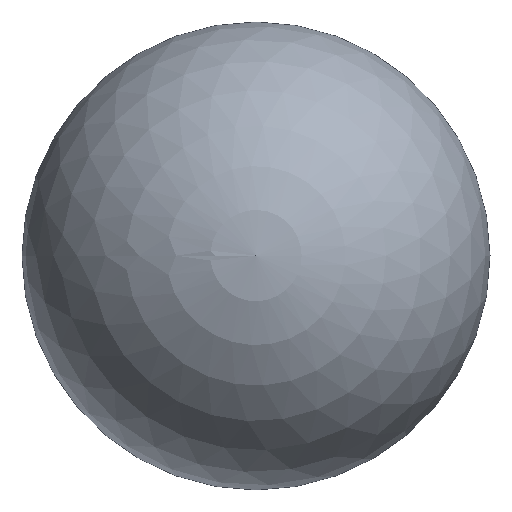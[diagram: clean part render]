
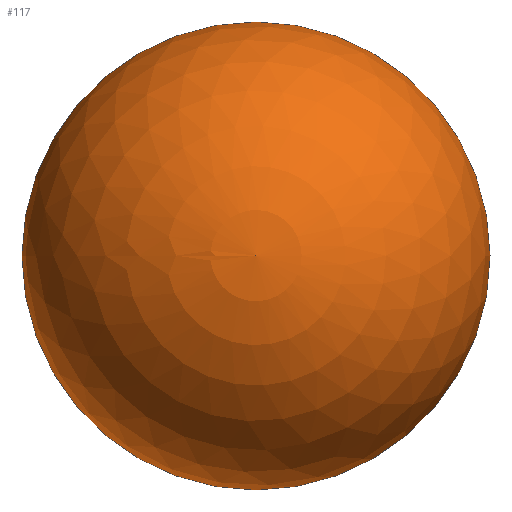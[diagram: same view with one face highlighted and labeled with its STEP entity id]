
A CAD part, top view. The second image highlights one B-rep face of the part: STEP entity #117.
In plain terms, the highlighted spherical face has radius 500 mm.
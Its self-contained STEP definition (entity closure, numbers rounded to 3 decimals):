
#46=FACE_OUTER_BOUND('',#54,.T.);
#54=EDGE_LOOP('',(#88,#89,#90));
#62=CIRCLE('',#142,500.);
#63=CIRCLE('',#143,500.);
#64=VERTEX_POINT('',#187);
#65=VERTEX_POINT('',#189);
#74=EDGE_CURVE('',#64,#64,#62,.T.);
#75=EDGE_CURVE('',#65,#64,#63,.T.);
#88=ORIENTED_EDGE('',*,*,#74,.F.);
#89=ORIENTED_EDGE('',*,*,#75,.F.);
#90=ORIENTED_EDGE('',*,*,#75,.T.);
#116=SPHERICAL_SURFACE('',#141,500.);
#117=ADVANCED_FACE('',(#46),#116,.T.);
#141=AXIS2_PLACEMENT_3D('',#186,#153,#154);
#142=AXIS2_PLACEMENT_3D('',#188,#155,#156);
#143=AXIS2_PLACEMENT_3D('',#190,#157,#158);
#153=DIRECTION('center_axis',(0.,0.,1.));
#154=DIRECTION('ref_axis',(1.,0.,0.));
#155=DIRECTION('center_axis',(0.,0.,-1.));
#156=DIRECTION('ref_axis',(1.,0.,0.));
#157=DIRECTION('center_axis',(0.,-1.,0.));
#158=DIRECTION('ref_axis',(-1.,0.,0.));
#186=CARTESIAN_POINT('Origin',(0.,0.,0.));
#187=CARTESIAN_POINT('',(-500.,0.,0.));
#188=CARTESIAN_POINT('Origin',(0.,0.,0.));
#189=CARTESIAN_POINT('',(0.,0.,500.));
#190=CARTESIAN_POINT('Origin',(0.,0.,0.));
